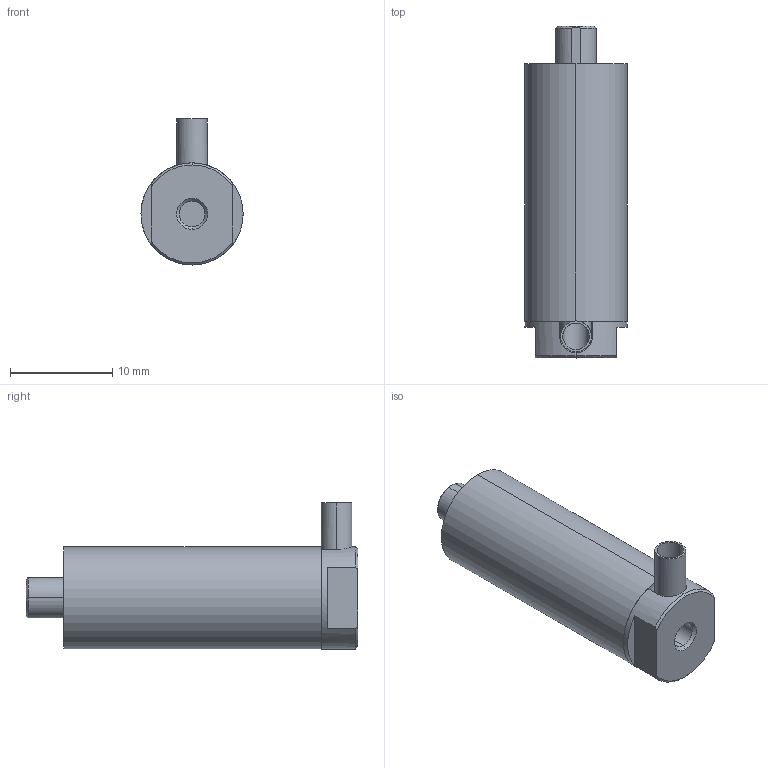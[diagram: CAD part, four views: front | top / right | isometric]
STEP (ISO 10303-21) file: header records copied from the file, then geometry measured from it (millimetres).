
FILE_DESCRIPTION (( 'STEP AP203' ), '1' );
FILE_NAME ('20VS10三维外形（内螺纹式）.STEP', '2024-10-25T02:41:58', ( 'daohangxitong.com' ), ( 'daohangxitong.com' ), 'SwSTEP 2.0', 'SolidWorks 2016', '' );
FILE_SCHEMA (( 'CONFIG_CONTROL_DESIGN' ));
Length unit declared in the file: millimetre
Products named in the file (1): 20VS10三维外形（内螺纹式）
Bounding box: 10.01 x 32.5 x 14.3 mm (x, y, z)
Volume: 2241.3 mm3; surface area: 1761.2 mm2
Topology: 5 solids, 5 shells, 75 faces, 166 edges, 99 vertices
Faces by surface type: cylinder 30, cone 23, plane 22
Entity records: 2140 total; most frequent: CARTESIAN_POINT 397, DIRECTION 375, ORIENTED_EDGE 320, EDGE_CURVE 160, AXIS2_PLACEMENT_3D 151, VERTEX_POINT 99, EDGE_LOOP 85, CIRCLE 75
